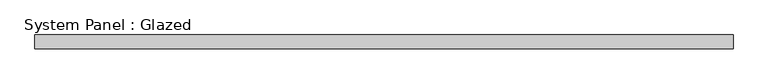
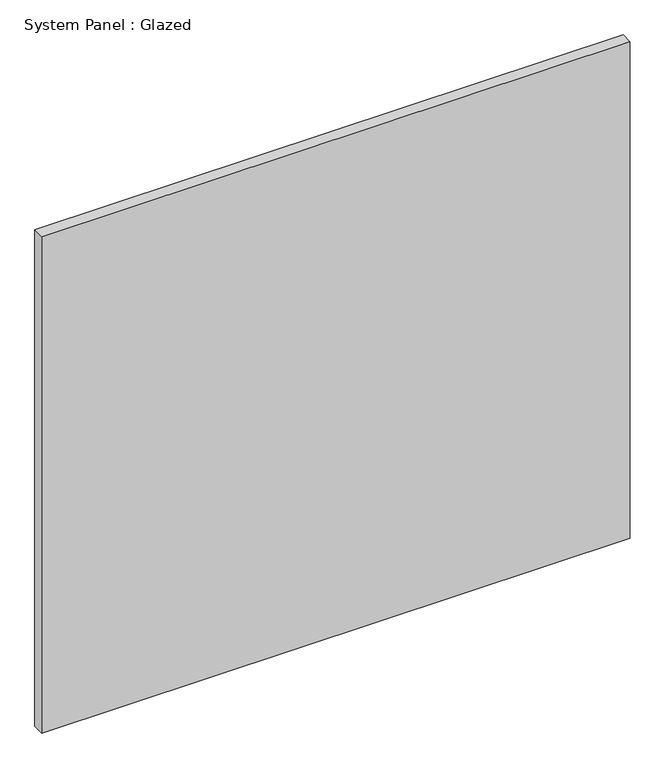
"""IFC4 building model written with IfcOpenShell, lengths in millimetres: plate geometry, System Panel : Glazed."""

from ifc_helpers import new_model, si_unit, origin, origin_with_axes, place, context, project, spatial, polyline, outline, extrude, source, transform, mapped, element, save


def system_panel_glazed_5405d736(model_context):
    return source(origin(), model_context, "Body", "SweptSolid", [
        extrude(outline(polyline([(630.8333334, 24.5), (-630.8333334, 24.5), (-630.8333334, 49.5), (630.8333334, 49.5), (630.8333334, 24.5)])), origin_with_axes(), (0.0, 0.0, 1.0), 1125.0),
    ])


if __name__ == "__main__":
    model = new_model("IFC4")
    model_context = context("Model", 3, world=origin())
    ifc_project = project(units=[si_unit("LENGTHUNIT", "METRE", prefix="MILLI")], contexts=[model_context])
    site = spatial("IfcSite", under=ifc_project)
    building = spatial("IfcBuilding", under=site)
    placement = place(None, origin())
    system_panel_glazed_shape = system_panel_glazed_5405d736(model_context)
    element("IfcPlate", 1, ObjectType="System Panel : Glazed", at=placement, inside=building, context=model_context, shape_type="MappedRepresentation", body=[
        mapped(system_panel_glazed_shape, transform((0.0, 0.0, 0.0), x_axis=(1.0, 0.0, 0.0), y_axis=(0.0, 1.0, 0.0), z_axis=(0.0, 0.0, 1.0))),
    ])
    save(model, "model.ifc")
